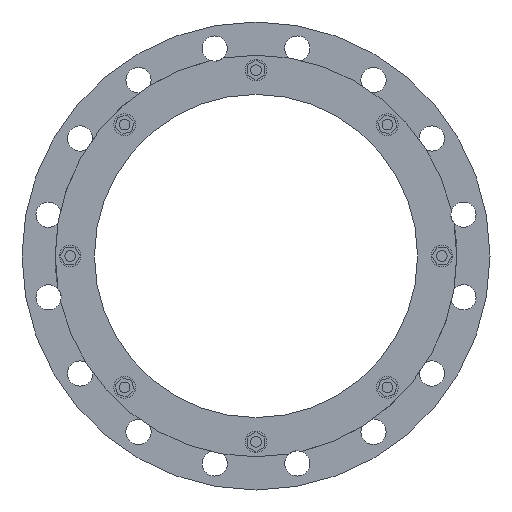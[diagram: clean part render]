
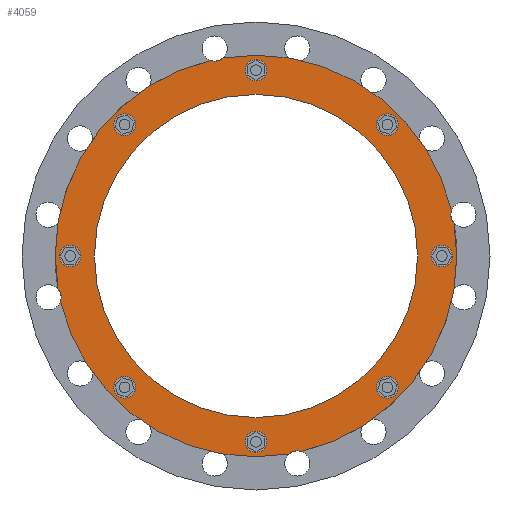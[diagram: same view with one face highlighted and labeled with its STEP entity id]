
A CAD part, front view. The second image highlights one B-rep face of the part: STEP entity #4059.
In plain terms, the highlighted planar face has unit normal (0, -1, 0).
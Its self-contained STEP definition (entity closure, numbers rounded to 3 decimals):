
#854=CARTESIAN_POINT('',(0.,-99.452,0.));
#855=DIRECTION('',(0.,-1.,0.));
#856=DIRECTION('',(0.974,0.,0.227));
#857=AXIS2_PLACEMENT_3D('',#854,#855,#856);
#877=CARTESIAN_POINT('',(0.,-99.452,0.));
#878=DIRECTION('',(0.,-1.,0.));
#879=DIRECTION('',(-0.227,0.,0.974));
#880=AXIS2_PLACEMENT_3D('',#877,#878,#879);
#886=CARTESIAN_POINT('',(0.,-99.452,0.));
#887=DIRECTION('',(0.,-1.,0.));
#888=DIRECTION('',(0.227,0.,-0.974));
#889=AXIS2_PLACEMENT_3D('',#886,#887,#888);
#918=CARTESIAN_POINT('',(0.,-99.452,0.));
#919=DIRECTION('',(0.,-1.,0.));
#920=DIRECTION('',(-0.974,0.,-0.227));
#921=AXIS2_PLACEMENT_3D('',#918,#919,#920);
#1404=CARTESIAN_POINT('',(206.5,-99.452,0.));
#1405=DIRECTION('',(0.,-1.,0.));
#1406=DIRECTION('',(0.,0.,-1.));
#1407=AXIS2_PLACEMENT_3D('',#1404,#1405,#1406);
#1409=CARTESIAN_POINT('',(206.5,-99.452,0.));
#1410=DIRECTION('',(0.,-1.,0.));
#1411=DIRECTION('',(0.,0.,1.));
#1412=AXIS2_PLACEMENT_3D('',#1409,#1410,#1411);
#1414=CARTESIAN_POINT('',(146.018,-99.452,146.018));
#1415=DIRECTION('',(0.,-1.,0.));
#1416=DIRECTION('',(0.707,0.,-0.707));
#1417=AXIS2_PLACEMENT_3D('',#1414,#1415,#1416);
#1419=CARTESIAN_POINT('',(146.018,-99.452,146.018));
#1420=DIRECTION('',(0.,-1.,0.));
#1421=DIRECTION('',(-0.707,0.,0.707));
#1422=AXIS2_PLACEMENT_3D('',#1419,#1420,#1421);
#1424=CARTESIAN_POINT('',(0.,-99.452,206.5));
#1425=DIRECTION('',(0.,-1.,0.));
#1426=DIRECTION('',(1.,0.,0.));
#1427=AXIS2_PLACEMENT_3D('',#1424,#1425,#1426);
#1429=CARTESIAN_POINT('',(0.,-99.452,206.5));
#1430=DIRECTION('',(0.,-1.,0.));
#1431=DIRECTION('',(-1.,0.,0.));
#1432=AXIS2_PLACEMENT_3D('',#1429,#1430,#1431);
#1434=CARTESIAN_POINT('',(-146.018,-99.452,146.018));
#1435=DIRECTION('',(0.,-1.,0.));
#1436=DIRECTION('',(0.707,0.,0.707));
#1437=AXIS2_PLACEMENT_3D('',#1434,#1435,#1436);
#1439=CARTESIAN_POINT('',(-146.018,-99.452,146.018));
#1440=DIRECTION('',(0.,-1.,0.));
#1441=DIRECTION('',(-0.707,0.,-0.707));
#1442=AXIS2_PLACEMENT_3D('',#1439,#1440,#1441);
#1444=CARTESIAN_POINT('',(-206.5,-99.452,0.));
#1445=DIRECTION('',(0.,-1.,0.));
#1446=DIRECTION('',(0.,0.,1.));
#1447=AXIS2_PLACEMENT_3D('',#1444,#1445,#1446);
#1449=CARTESIAN_POINT('',(-206.5,-99.452,0.));
#1450=DIRECTION('',(0.,-1.,0.));
#1451=DIRECTION('',(0.,0.,-1.));
#1452=AXIS2_PLACEMENT_3D('',#1449,#1450,#1451);
#1454=CARTESIAN_POINT('',(-146.018,-99.452,-146.018));
#1455=DIRECTION('',(0.,-1.,0.));
#1456=DIRECTION('',(-0.707,0.,0.707));
#1457=AXIS2_PLACEMENT_3D('',#1454,#1455,#1456);
#1459=CARTESIAN_POINT('',(-146.018,-99.452,-146.018));
#1460=DIRECTION('',(0.,-1.,0.));
#1461=DIRECTION('',(0.707,0.,-0.707));
#1462=AXIS2_PLACEMENT_3D('',#1459,#1460,#1461);
#1464=CARTESIAN_POINT('',(0.,-99.452,-206.5));
#1465=DIRECTION('',(0.,-1.,0.));
#1466=DIRECTION('',(-1.,0.,0.));
#1467=AXIS2_PLACEMENT_3D('',#1464,#1465,#1466);
#1469=CARTESIAN_POINT('',(0.,-99.452,-206.5));
#1470=DIRECTION('',(0.,-1.,0.));
#1471=DIRECTION('',(1.,0.,0.));
#1472=AXIS2_PLACEMENT_3D('',#1469,#1470,#1471);
#1474=CARTESIAN_POINT('',(146.018,-99.452,-146.018));
#1475=DIRECTION('',(0.,-1.,0.));
#1476=DIRECTION('',(-0.707,0.,-0.707));
#1477=AXIS2_PLACEMENT_3D('',#1474,#1475,#1476);
#1479=CARTESIAN_POINT('',(146.018,-99.452,-146.018));
#1480=DIRECTION('',(0.,-1.,0.));
#1481=DIRECTION('',(0.707,0.,0.707));
#1482=AXIS2_PLACEMENT_3D('',#1479,#1480,#1481);
#1484=CARTESIAN_POINT('',(45.846,-99.452,-230.485));
#1485=DIRECTION('',(0.,-1.,0.));
#1486=DIRECTION('',(0.336,0.,0.942));
#1487=AXIS2_PLACEMENT_3D('',#1484,#1485,#1486);
#1489=CARTESIAN_POINT('',(-230.485,-99.452,-45.846));
#1490=DIRECTION('',(0.,-1.,0.));
#1491=DIRECTION('',(0.942,0.,-0.336));
#1492=AXIS2_PLACEMENT_3D('',#1489,#1490,#1491);
#1494=CARTESIAN_POINT('',(-45.846,-99.452,230.485));
#1495=DIRECTION('',(0.,-1.,0.));
#1496=DIRECTION('',(-0.336,0.,-0.942));
#1497=AXIS2_PLACEMENT_3D('',#1494,#1495,#1496);
#1499=CARTESIAN_POINT('',(230.485,-99.452,45.846));
#1500=DIRECTION('',(0.,-1.,0.));
#1501=DIRECTION('',(-0.942,0.,0.336));
#1502=AXIS2_PLACEMENT_3D('',#1499,#1500,#1501);
#1504=CARTESIAN_POINT('',(0.,-99.452,0.));
#1505=DIRECTION('',(0.,1.,0.));
#1506=DIRECTION('',(1.,0.,0.));
#1507=AXIS2_PLACEMENT_3D('',#1504,#1505,#1506);
#1517=CARTESIAN_POINT('',(0.,-99.452,0.));
#1518=DIRECTION('',(0.,-1.,0.));
#1519=DIRECTION('',(1.,0.,0.));
#1520=AXIS2_PLACEMENT_3D('',#1517,#1518,#1519);
#2518=CARTESIAN_POINT('',(179.5,-99.452,0.));
#2520=VERTEX_POINT('',#2518);
#2526=CARTESIAN_POINT('',(-179.5,-99.452,0.));
#2528=VERTEX_POINT('',#2526);
#2567=CARTESIAN_POINT('',(206.5,-99.452,-12.));
#2568=CARTESIAN_POINT('',(206.5,-99.452,12.));
#2569=VERTEX_POINT('',#2567);
#2570=VERTEX_POINT('',#2568);
#2616=CARTESIAN_POINT('',(154.503,-99.452,137.532));
#2617=VERTEX_POINT('',#2616);
#2618=CARTESIAN_POINT('',(137.532,-99.452,154.503));
#2619=VERTEX_POINT('',#2618);
#2660=CARTESIAN_POINT('',(12.,-99.452,206.5));
#2661=VERTEX_POINT('',#2660);
#2662=CARTESIAN_POINT('',(-12.,-99.452,206.5));
#2663=VERTEX_POINT('',#2662);
#2704=CARTESIAN_POINT('',(-137.532,-99.452,154.503));
#2705=VERTEX_POINT('',#2704);
#2706=CARTESIAN_POINT('',(-154.503,-99.452,137.532));
#2707=VERTEX_POINT('',#2706);
#2748=CARTESIAN_POINT('',(-206.5,-99.452,12.));
#2749=VERTEX_POINT('',#2748);
#2750=CARTESIAN_POINT('',(-206.5,-99.452,-12.));
#2751=VERTEX_POINT('',#2750);
#2792=CARTESIAN_POINT('',(-154.503,-99.452,-137.532));
#2793=VERTEX_POINT('',#2792);
#2794=CARTESIAN_POINT('',(-137.532,-99.452,-154.503));
#2795=VERTEX_POINT('',#2794);
#2836=CARTESIAN_POINT('',(-12.,-99.452,-206.5));
#2837=VERTEX_POINT('',#2836);
#2838=CARTESIAN_POINT('',(12.,-99.452,-206.5));
#2839=VERTEX_POINT('',#2838);
#2880=CARTESIAN_POINT('',(137.532,-99.452,-154.503));
#2881=VERTEX_POINT('',#2880);
#2882=CARTESIAN_POINT('',(154.503,-99.452,-137.532));
#2883=VERTEX_POINT('',#2882);
#3082=CARTESIAN_POINT('',(217.298,-99.452,50.549));
#3083=CARTESIAN_POINT('',(220.101,-99.452,36.455));
#3084=VERTEX_POINT('',#3082);
#3085=VERTEX_POINT('',#3083);
#3088=CARTESIAN_POINT('',(-50.549,-99.452,217.298));
#3090=VERTEX_POINT('',#3088);
#3092=CARTESIAN_POINT('',(-36.455,-99.452,220.101));
#3094=VERTEX_POINT('',#3092);
#3098=CARTESIAN_POINT('',(-217.298,-99.452,-50.549));
#3099=VERTEX_POINT('',#3098);
#3100=CARTESIAN_POINT('',(-220.101,-99.452,-36.455));
#3101=VERTEX_POINT('',#3100);
#3104=CARTESIAN_POINT('',(50.549,-99.452,-217.298));
#3105=VERTEX_POINT('',#3104);
#3106=CARTESIAN_POINT('',(36.455,-99.452,-220.101));
#3107=VERTEX_POINT('',#3106);
#3989=CARTESIAN_POINT('',(0.,-99.452,0.));
#3990=DIRECTION('',(0.,1.,0.));
#3991=DIRECTION('',(-1.,0.,0.));
#3992=AXIS2_PLACEMENT_3D('',#3989,#3990,#3991);
#3993=PLANE('',#3992);
#3994=ORIENTED_EDGE('',*,*,#3618,.T.);
#3995=ORIENTED_EDGE('',*,*,#3683,.F.);
#3997=ORIENTED_EDGE('',*,*,#3996,.T.);
#3998=ORIENTED_EDGE('',*,*,#3653,.F.);
#3999=ORIENTED_EDGE('',*,*,#3697,.T.);
#4000=ORIENTED_EDGE('',*,*,#3636,.F.);
#4002=ORIENTED_EDGE('',*,*,#4001,.T.);
#4003=ORIENTED_EDGE('',*,*,#3664,.F.);
#4004=EDGE_LOOP('',(#3994,#3995,#3997,#3998,#3999,#4000,#4002,#4003));
#4005=FACE_OUTER_BOUND('',#4004,.F.);
#4006=ORIENTED_EDGE('',*,*,#3979,.T.);
#4008=ORIENTED_EDGE('',*,*,#4007,.T.);
#4009=EDGE_LOOP('',(#4006,#4008));
#4010=FACE_BOUND('',#4009,.F.);
#4012=ORIENTED_EDGE('',*,*,#4011,.T.);
#4014=ORIENTED_EDGE('',*,*,#4013,.T.);
#4015=EDGE_LOOP('',(#4012,#4014));
#4016=FACE_BOUND('',#4015,.F.);
#4018=ORIENTED_EDGE('',*,*,#4017,.T.);
#4020=ORIENTED_EDGE('',*,*,#4019,.T.);
#4021=EDGE_LOOP('',(#4018,#4020));
#4022=FACE_BOUND('',#4021,.F.);
#4024=ORIENTED_EDGE('',*,*,#4023,.T.);
#4026=ORIENTED_EDGE('',*,*,#4025,.T.);
#4027=EDGE_LOOP('',(#4024,#4026));
#4028=FACE_BOUND('',#4027,.F.);
#4030=ORIENTED_EDGE('',*,*,#4029,.T.);
#4032=ORIENTED_EDGE('',*,*,#4031,.T.);
#4033=EDGE_LOOP('',(#4030,#4032));
#4034=FACE_BOUND('',#4033,.F.);
#4036=ORIENTED_EDGE('',*,*,#4035,.T.);
#4038=ORIENTED_EDGE('',*,*,#4037,.T.);
#4039=EDGE_LOOP('',(#4036,#4038));
#4040=FACE_BOUND('',#4039,.F.);
#4042=ORIENTED_EDGE('',*,*,#4041,.T.);
#4044=ORIENTED_EDGE('',*,*,#4043,.T.);
#4045=EDGE_LOOP('',(#4042,#4044));
#4046=FACE_BOUND('',#4045,.F.);
#4048=ORIENTED_EDGE('',*,*,#4047,.T.);
#4050=ORIENTED_EDGE('',*,*,#4049,.T.);
#4051=EDGE_LOOP('',(#4048,#4050));
#4052=FACE_BOUND('',#4051,.F.);
#4054=ORIENTED_EDGE('',*,*,#4053,.F.);
#4056=ORIENTED_EDGE('',*,*,#4055,.T.);
#4057=EDGE_LOOP('',(#4054,#4056));
#4058=FACE_BOUND('',#4057,.F.);
#4059=ADVANCED_FACE('',(#4005,#4010,#4016,#4022,#4028,#4034,#4040,#4046,#4052,
#4058),#3993,.F.);
#858=CIRCLE('',#857,223.1);
#881=CIRCLE('',#880,223.1);
#890=CIRCLE('',#889,223.1);
#922=CIRCLE('',#921,223.1);
#1408=CIRCLE('',#1407,12.);
#1413=CIRCLE('',#1412,12.);
#1418=CIRCLE('',#1417,12.);
#1423=CIRCLE('',#1422,12.);
#1428=CIRCLE('',#1427,12.);
#1433=CIRCLE('',#1432,12.);
#1438=CIRCLE('',#1437,12.);
#1443=CIRCLE('',#1442,12.);
#1448=CIRCLE('',#1447,12.);
#1453=CIRCLE('',#1452,12.);
#1458=CIRCLE('',#1457,12.);
#1463=CIRCLE('',#1462,12.);
#1468=CIRCLE('',#1467,12.);
#1473=CIRCLE('',#1472,12.);
#1478=CIRCLE('',#1477,12.);
#1483=CIRCLE('',#1482,12.);
#1488=CIRCLE('',#1487,14.);
#1493=CIRCLE('',#1492,14.);
#1498=CIRCLE('',#1497,14.);
#1503=CIRCLE('',#1502,14.);
#1508=CIRCLE('',#1507,179.5);
#1521=CIRCLE('',#1520,179.5);
#3618=EDGE_CURVE('',#3105,#3107,#1488,.T.);
#3636=EDGE_CURVE('',#3084,#3094,#858,.T.);
#3653=EDGE_CURVE('',#3090,#3101,#881,.T.);
#3664=EDGE_CURVE('',#3105,#3085,#890,.T.);
#3683=EDGE_CURVE('',#3099,#3107,#922,.T.);
#3697=EDGE_CURVE('',#3090,#3094,#1498,.T.);
#3979=EDGE_CURVE('',#2569,#2570,#1408,.T.);
#3996=EDGE_CURVE('',#3099,#3101,#1493,.T.);
#4001=EDGE_CURVE('',#3084,#3085,#1503,.T.);
#4007=EDGE_CURVE('',#2570,#2569,#1413,.T.);
#4011=EDGE_CURVE('',#2617,#2619,#1418,.T.);
#4013=EDGE_CURVE('',#2619,#2617,#1423,.T.);
#4017=EDGE_CURVE('',#2661,#2663,#1428,.T.);
#4019=EDGE_CURVE('',#2663,#2661,#1433,.T.);
#4023=EDGE_CURVE('',#2705,#2707,#1438,.T.);
#4025=EDGE_CURVE('',#2707,#2705,#1443,.T.);
#4029=EDGE_CURVE('',#2749,#2751,#1448,.T.);
#4031=EDGE_CURVE('',#2751,#2749,#1453,.T.);
#4035=EDGE_CURVE('',#2793,#2795,#1458,.T.);
#4037=EDGE_CURVE('',#2795,#2793,#1463,.T.);
#4041=EDGE_CURVE('',#2837,#2839,#1468,.T.);
#4043=EDGE_CURVE('',#2839,#2837,#1473,.T.);
#4047=EDGE_CURVE('',#2881,#2883,#1478,.T.);
#4049=EDGE_CURVE('',#2883,#2881,#1483,.T.);
#4053=EDGE_CURVE('',#2520,#2528,#1508,.T.);
#4055=EDGE_CURVE('',#2520,#2528,#1521,.T.);
